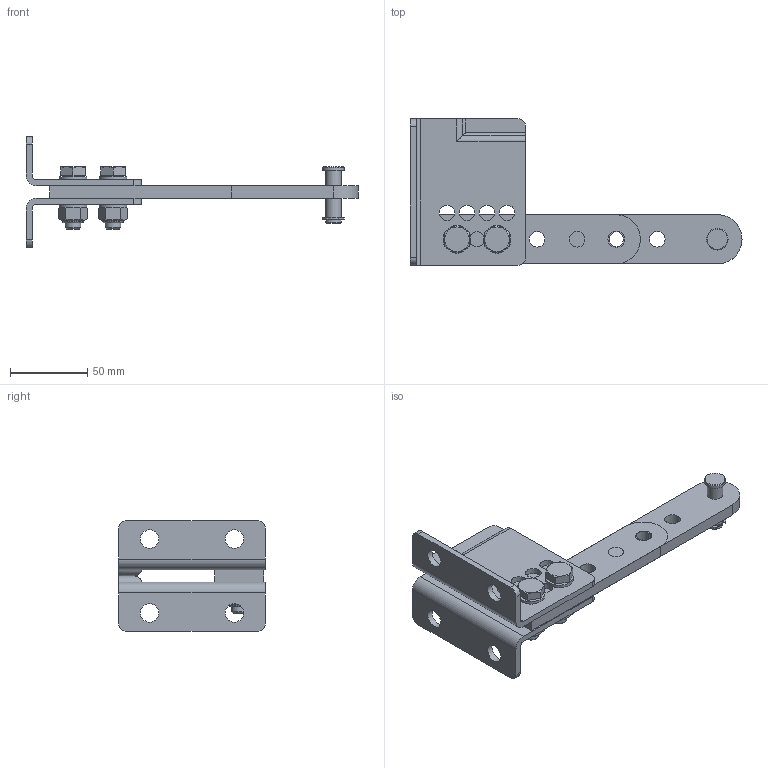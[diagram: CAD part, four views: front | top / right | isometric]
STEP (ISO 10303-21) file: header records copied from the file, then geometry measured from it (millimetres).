
FILE_DESCRIPTION(/* description */ ('Unknown'),/* implementation_level */ '2;1');
FILE_NAME(/* name */ 'MLS_SFR P1',/* time_stamp */ '2021-06-22T15:08:33+02:00',/* author */ ('Unknown'),/* organization */ ('Unknown'),/* preprocessor_version */ 'ST-DEVELOPER v16.7',/* originating_system */ 'DEX',/* authorisation */ $);
FILE_SCHEMA (('AUTOMOTIVE_DESIGN {1 0 10303 214 3 1 1}'));
Length unit declared in the file: millimetre
Products named in the file (11): Asm1; 382490; 382490 P1; 382500; 382510; 131504; 132228; 131251; 331570; 130603
Assembly tree (15 placements, depth 3):
  Asm1
    382490
      382490 P1
      382490
    382500
    382510
    131504  x4
    132228  x2
    131251  x2
    331570
    130603
Bounding box: 215.5 x 95 x 72 mm (x, y, z)
Volume: 162863.5 mm3; surface area: 78730.9 mm2
Topology: 14 solids, 14 shells, 216 faces, 536 edges, 357 vertices
Faces by surface type: plane 89, cylinder 89, cone 34, torus 4
Full cylindrical faces by diameter (mm): 8 x1, 10 x20, 10.1 x11, 10.5 x4, 10.83 x2, 12 x4, 13 x2, 14 x1, 18 x4
Entity records: 5177 total; most frequent: CARTESIAN_POINT 879, DIRECTION 848, ORIENTED_EDGE 696, AXIS2_PLACEMENT_3D 351, EDGE_CURVE 348, EDGE_LOOP 278, FACE_BOUND 278, VERTEX_POINT 256
